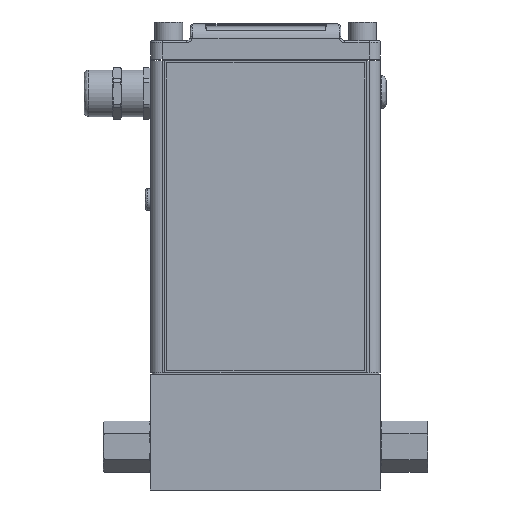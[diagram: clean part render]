
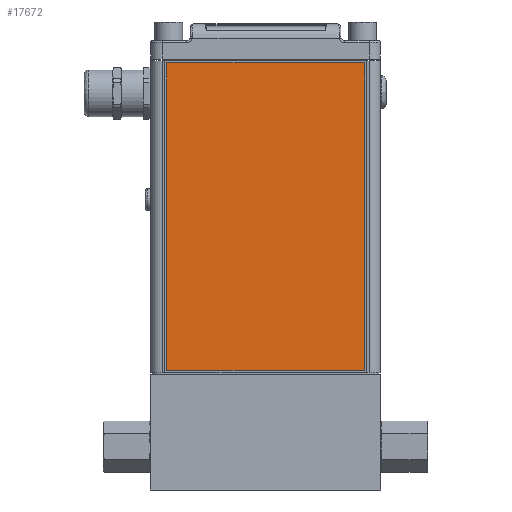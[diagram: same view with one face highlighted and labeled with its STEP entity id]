
A CAD part, front view. The second image highlights one B-rep face of the part: STEP entity #17672.
In plain terms, the highlighted planar face has unit normal (0, -1, 0).
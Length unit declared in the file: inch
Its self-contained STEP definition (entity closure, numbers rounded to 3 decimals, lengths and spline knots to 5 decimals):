
#1765 = DIRECTION ( 'NONE',  ( 1., 0., 0. ) ) ;
#2268 = ORIENTED_EDGE ( 'NONE', *, *, #15052, .T. ) ;
#2510 = CARTESIAN_POINT ( 'NONE',  ( 1.27678, -0.25061, 1.07514 ) ) ;
#2574 = VECTOR ( 'NONE', #15291, 39.37008 ) ;
#2900 = DIRECTION ( 'NONE',  ( 0., 0., -1. ) ) ;
#3066 = LINE ( 'NONE', #3275, #2574 ) ;
#3275 = CARTESIAN_POINT ( 'NONE',  ( 1.27678, -0.25061, 6.24514 ) ) ;
#4025 = DIRECTION ( 'NONE',  ( 0., 0., -1. ) ) ;
#4352 = VERTEX_POINT ( 'NONE', #14104 ) ;
#4384 = CARTESIAN_POINT ( 'NONE',  ( 2.94178, -0.25061, 6.24514 ) ) ;
#4902 = VECTOR ( 'NONE', #1765, 39.37008 ) ;
#5498 = DIRECTION ( 'NONE',  ( 0., 0., 1. ) ) ;
#9245 = FACE_OUTER_BOUND ( 'NONE', #15806, .T. ) ;
#9251 = CARTESIAN_POINT ( 'NONE',  ( 1.27678, -0.25061, 1.07514 ) ) ;
#10717 = LINE ( 'NONE', #16298, #18252 ) ;
#11044 = PLANE ( 'NONE',  #13517 ) ;
#11957 = EDGE_CURVE ( 'NONE', #14863, #18901, #12137, .T. ) ;
#12137 = LINE ( 'NONE', #12937, #18709 ) ;
#12500 = EDGE_CURVE ( 'NONE', #4352, #13859, #10717, .T. ) ;
#12937 = CARTESIAN_POINT ( 'NONE',  ( 2.94178, -0.25061, 1.07514 ) ) ;
#13003 = DIRECTION ( 'NONE',  ( 0., -1., 0. ) ) ;
#13517 = AXIS2_PLACEMENT_3D ( 'NONE', #2510, #13003, #4025 ) ;
#13859 = VERTEX_POINT ( 'NONE', #18111 ) ;
#13888 = EDGE_CURVE ( 'NONE', #18901, #4352, #3066, .T. ) ;
#14104 = CARTESIAN_POINT ( 'NONE',  ( -0.38822, -0.25061, 6.24514 ) ) ;
#14800 = ORIENTED_EDGE ( 'NONE', *, *, #11957, .T. ) ;
#14863 = VERTEX_POINT ( 'NONE', #17709 ) ;
#15052 = EDGE_CURVE ( 'NONE', #13859, #14863, #16395, .T. ) ;
#15291 = DIRECTION ( 'NONE',  ( -1., 0., 0. ) ) ;
#15806 = EDGE_LOOP ( 'NONE', ( #16417, #2268, #14800, #17416 ) ) ;
#16298 = CARTESIAN_POINT ( 'NONE',  ( -0.38822, -0.25061, 1.07514 ) ) ;
#16395 = LINE ( 'NONE', #9251, #4902 ) ;
#16417 = ORIENTED_EDGE ( 'NONE', *, *, #12500, .T. ) ;
#17416 = ORIENTED_EDGE ( 'NONE', *, *, #13888, .T. ) ;
#17672 = ADVANCED_FACE ( 'NONE', ( #9245 ), #11044, .T. ) ;
#17709 = CARTESIAN_POINT ( 'NONE',  ( 2.94178, -0.25061, 1.07514 ) ) ;
#18111 = CARTESIAN_POINT ( 'NONE',  ( -0.38822, -0.25061, 1.07514 ) ) ;
#18252 = VECTOR ( 'NONE', #2900, 39.37008 ) ;
#18709 = VECTOR ( 'NONE', #5498, 39.37008 ) ;
#18901 = VERTEX_POINT ( 'NONE', #4384 ) ;
